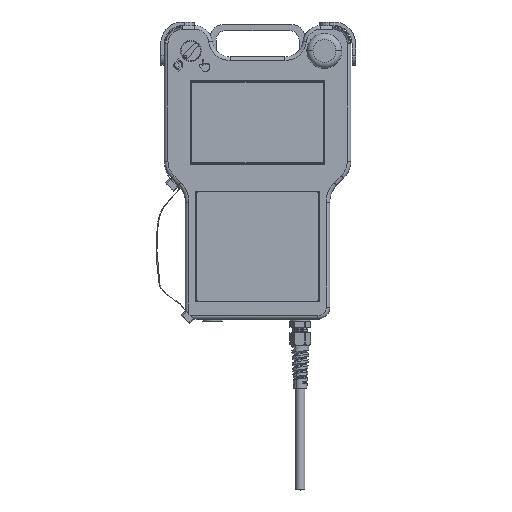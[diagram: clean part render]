
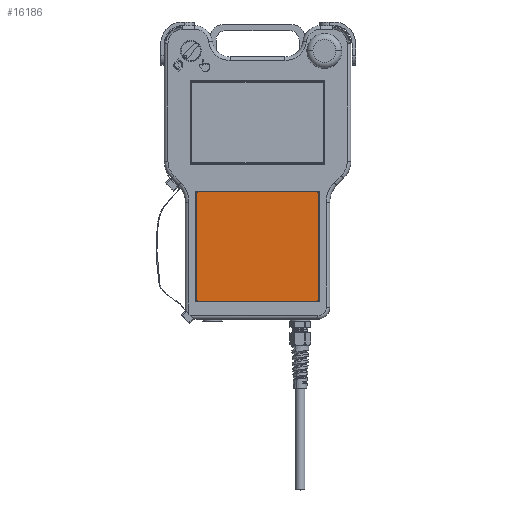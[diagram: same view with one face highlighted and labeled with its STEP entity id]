
A CAD part, top view. The second image highlights one B-rep face of the part: STEP entity #16186.
In plain terms, the highlighted planar face has unit normal (0, 0, 1).
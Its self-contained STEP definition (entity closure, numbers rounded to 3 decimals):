
#429 = DIRECTION ( 'NONE',  ( 1., 0., 0. ) ) ;
#1647 = EDGE_CURVE ( 'NONE', #30728, #13716, #19776, .T. ) ;
#1889 = DIRECTION ( 'NONE',  ( 1., 0., 0. ) ) ;
#2387 = CARTESIAN_POINT ( 'NONE',  ( 42.351, 6.117, 218.88 ) ) ;
#2628 = CIRCLE ( 'NONE', #8208, 2. ) ;
#2660 = DIRECTION ( 'NONE',  ( 0., 0., 1. ) ) ;
#3047 = VERTEX_POINT ( 'NONE', #2387 ) ;
#4120 = DIRECTION ( 'NONE',  ( 0., 0., 1. ) ) ;
#4459 = DIRECTION ( 'NONE',  ( 1., 0., 0. ) ) ;
#4463 = ORIENTED_EDGE ( 'NONE', *, *, #28629, .T. ) ;
#4829 = CARTESIAN_POINT ( 'NONE',  ( -57.649, 6.117, 218.88 ) ) ;
#5005 = PLANE ( 'NONE',  #16808 ) ;
#5160 = CIRCLE ( 'NONE', #21936, 2. ) ;
#7014 = LINE ( 'NONE', #23839, #13859 ) ;
#7233 = CIRCLE ( 'NONE', #28352, 2. ) ;
#7914 = VECTOR ( 'NONE', #8686, 1000. ) ;
#8109 = VERTEX_POINT ( 'NONE', #32714 ) ;
#8208 = AXIS2_PLACEMENT_3D ( 'NONE', #4829, #2660, #23117 ) ;
#8686 = DIRECTION ( 'NONE',  ( 0., -1., 0. ) ) ;
#9755 = ORIENTED_EDGE ( 'NONE', *, *, #1647, .T. ) ;
#9901 = ORIENTED_EDGE ( 'NONE', *, *, #17213, .T. ) ;
#10234 = CARTESIAN_POINT ( 'NONE',  ( 40.351, -80.883, 218.88 ) ) ;
#11125 = ORIENTED_EDGE ( 'NONE', *, *, #33309, .T. ) ;
#12827 = DIRECTION ( 'NONE',  ( 0., 0., 1. ) ) ;
#13716 = VERTEX_POINT ( 'NONE', #21538 ) ;
#13859 = VECTOR ( 'NONE', #32975, 1000. ) ;
#13876 = VERTEX_POINT ( 'NONE', #28315 ) ;
#14046 = EDGE_CURVE ( 'NONE', #8109, #3047, #7014, .T. ) ;
#16186 = ADVANCED_FACE ( 'NONE', ( #25810 ), #5005, .T. ) ;
#16807 = CARTESIAN_POINT ( 'NONE',  ( -57.649, -82.883, 218.88 ) ) ;
#16808 = AXIS2_PLACEMENT_3D ( 'NONE', #28539, #19802, #1889 ) ;
#16812 = VERTEX_POINT ( 'NONE', #25278 ) ;
#17213 = EDGE_CURVE ( 'NONE', #16812, #30728, #5160, .T. ) ;
#17376 = ORIENTED_EDGE ( 'NONE', *, *, #36896, .T. ) ;
#19776 = LINE ( 'NONE', #37231, #29029 ) ;
#19802 = DIRECTION ( 'NONE',  ( 0., 0., 1. ) ) ;
#20590 = VERTEX_POINT ( 'NONE', #38182 ) ;
#21538 = CARTESIAN_POINT ( 'NONE',  ( 40.351, -82.883, 218.88 ) ) ;
#21647 = CARTESIAN_POINT ( 'NONE',  ( -57.649, -80.883, 218.88 ) ) ;
#21832 = CARTESIAN_POINT ( 'NONE',  ( 40.351, 6.117, 218.88 ) ) ;
#21936 = AXIS2_PLACEMENT_3D ( 'NONE', #21647, #12827, #429 ) ;
#22530 = EDGE_LOOP ( 'NONE', ( #17376, #28547, #4463, #11125, #9901, #9755, #25723, #34473 ) ) ;
#22548 = DIRECTION ( 'NONE',  ( 0., 0., 1. ) ) ;
#23117 = DIRECTION ( 'NONE',  ( 1., 0., 0. ) ) ;
#23517 = CARTESIAN_POINT ( 'NONE',  ( -59.649, 6.117, 218.88 ) ) ;
#23839 = CARTESIAN_POINT ( 'NONE',  ( 42.351, -80.883, 218.88 ) ) ;
#25278 = CARTESIAN_POINT ( 'NONE',  ( -59.649, -80.883, 218.88 ) ) ;
#25723 = ORIENTED_EDGE ( 'NONE', *, *, #30052, .T. ) ;
#25810 = FACE_OUTER_BOUND ( 'NONE', #22530, .T. ) ;
#25960 = CARTESIAN_POINT ( 'NONE',  ( -59.649, 6.117, 218.88 ) ) ;
#26008 = DIRECTION ( 'NONE',  ( -1., 0., 0. ) ) ;
#27627 = DIRECTION ( 'NONE',  ( 1., 0., 0. ) ) ;
#27695 = EDGE_CURVE ( 'NONE', #20590, #13876, #28541, .T. ) ;
#28315 = CARTESIAN_POINT ( 'NONE',  ( -57.649, 8.117, 218.88 ) ) ;
#28352 = AXIS2_PLACEMENT_3D ( 'NONE', #21832, #4120, #27627 ) ;
#28539 = CARTESIAN_POINT ( 'NONE',  ( 40.351, 6.117, 218.88 ) ) ;
#28541 = LINE ( 'NONE', #32248, #34855 ) ;
#28547 = ORIENTED_EDGE ( 'NONE', *, *, #27695, .T. ) ;
#28629 = EDGE_CURVE ( 'NONE', #13876, #30947, #2628, .T. ) ;
#28881 = AXIS2_PLACEMENT_3D ( 'NONE', #10234, #22548, #4459 ) ;
#29029 = VECTOR ( 'NONE', #33988, 1000. ) ;
#30052 = EDGE_CURVE ( 'NONE', #13716, #8109, #31987, .T. ) ;
#30728 = VERTEX_POINT ( 'NONE', #16807 ) ;
#30947 = VERTEX_POINT ( 'NONE', #25960 ) ;
#31987 = CIRCLE ( 'NONE', #28881, 2. ) ;
#32248 = CARTESIAN_POINT ( 'NONE',  ( 40.351, 8.117, 218.88 ) ) ;
#32714 = CARTESIAN_POINT ( 'NONE',  ( 42.351, -80.883, 218.88 ) ) ;
#32975 = DIRECTION ( 'NONE',  ( 0., 1., 0. ) ) ;
#33309 = EDGE_CURVE ( 'NONE', #30947, #16812, #38245, .T. ) ;
#33988 = DIRECTION ( 'NONE',  ( 1., 0., 0. ) ) ;
#34473 = ORIENTED_EDGE ( 'NONE', *, *, #14046, .T. ) ;
#34855 = VECTOR ( 'NONE', #26008, 1000. ) ;
#36896 = EDGE_CURVE ( 'NONE', #3047, #20590, #7233, .T. ) ;
#37231 = CARTESIAN_POINT ( 'NONE',  ( -57.649, -82.883, 218.88 ) ) ;
#38182 = CARTESIAN_POINT ( 'NONE',  ( 40.351, 8.117, 218.88 ) ) ;
#38245 = LINE ( 'NONE', #23517, #7914 ) ;
